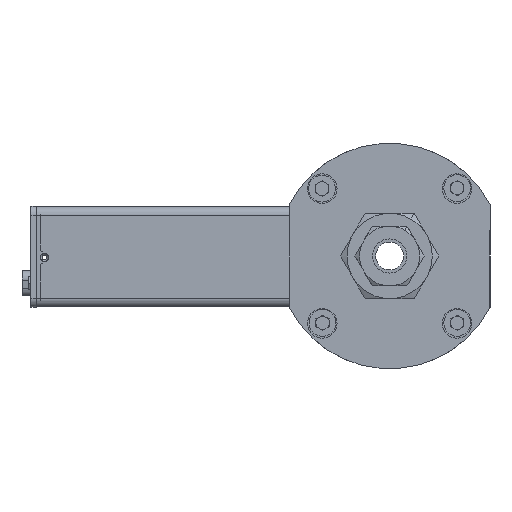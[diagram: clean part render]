
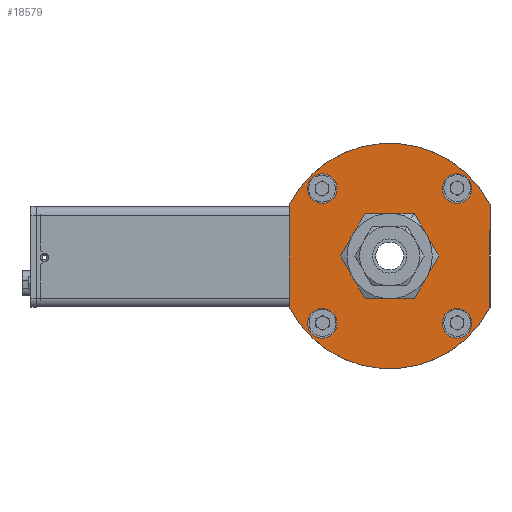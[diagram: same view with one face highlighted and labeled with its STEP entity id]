
A CAD part, left-side view. The second image highlights one B-rep face of the part: STEP entity #18579.
In plain terms, the highlighted planar face has unit normal (-1, 0, 0).
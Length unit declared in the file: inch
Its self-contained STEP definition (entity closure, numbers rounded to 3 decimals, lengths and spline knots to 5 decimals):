
#209 = DIRECTION ( 'NONE',  ( 0., -1., 0. ) ) ;
#408 = CARTESIAN_POINT ( 'NONE',  ( -6.97778, -0.77414, 1.81175 ) ) ;
#474 = CARTESIAN_POINT ( 'NONE',  ( -6.97778, -3.01832, 2.80003 ) ) ;
#493 = CARTESIAN_POINT ( 'NONE',  ( -6.97778, -3.23486, 0.82347 ) ) ;
#518 = CARTESIAN_POINT ( 'NONE',  ( -6.97778, -2.24658, 1.81175 ) ) ;
#522 = CIRCLE ( 'NONE', #21994, 0.21654 ) ;
#972 = FACE_BOUND ( 'NONE', #23304, .T. ) ;
#1647 = EDGE_LOOP ( 'NONE', ( #6251, #41717 ) ) ;
#1724 = CIRCLE ( 'NONE', #35048, 1.65354 ) ;
#2068 = EDGE_CURVE ( 'NONE', #42724, #38268, #38890, .T. ) ;
#2245 = VERTEX_POINT ( 'NONE', #11290 ) ;
#2362 = CARTESIAN_POINT ( 'NONE',  ( -6.97778, -1.2583, 2.80003 ) ) ;
#2393 = CARTESIAN_POINT ( 'NONE',  ( -6.97778, -1.04177, 0.82347 ) ) ;
#2960 = CIRCLE ( 'NONE', #24435, 0.21654 ) ;
#2998 = DIRECTION ( 'NONE',  ( 1., 0., 0. ) ) ;
#3721 = EDGE_CURVE ( 'NONE', #27210, #27921, #21081, .T. ) ;
#4463 = VERTEX_POINT ( 'NONE', #474 ) ;
#4666 = FACE_BOUND ( 'NONE', #38245, .T. ) ;
#6251 = ORIENTED_EDGE ( 'NONE', *, *, #33687, .T. ) ;
#6836 = DIRECTION ( 'NONE',  ( 0., 0., 1. ) ) ;
#7296 = EDGE_CURVE ( 'NONE', #21933, #2245, #29331, .T. ) ;
#7508 = ORIENTED_EDGE ( 'NONE', *, *, #3721, .T. ) ;
#7534 = VERTEX_POINT ( 'NONE', #11769 ) ;
#7545 = CARTESIAN_POINT ( 'NONE',  ( -6.97778, -3.23486, 0.82347 ) ) ;
#7663 = DIRECTION ( 'NONE',  ( 0., -1., 0. ) ) ;
#7670 = VECTOR ( 'NONE', #13636, 39.37008 ) ;
#7919 = DIRECTION ( 'NONE',  ( -1., 0., 0. ) ) ;
#8388 = FACE_BOUND ( 'NONE', #42024, .T. ) ;
#8608 = ORIENTED_EDGE ( 'NONE', *, *, #19496, .T. ) ;
#8610 = VERTEX_POINT ( 'NONE', #39188 ) ;
#9616 = ORIENTED_EDGE ( 'NONE', *, *, #33830, .T. ) ;
#9681 = CARTESIAN_POINT ( 'NONE',  ( -6.97778, -3.71902, 1.05933 ) ) ;
#10031 = CIRCLE ( 'NONE', #35907, 0.21654 ) ;
#11290 = CARTESIAN_POINT ( 'NONE',  ( -6.97778, -1.04177, 2.80003 ) ) ;
#11499 = DIRECTION ( 'NONE',  ( 1., 0., 0. ) ) ;
#11527 = DIRECTION ( 'NONE',  ( 0., 1., 0. ) ) ;
#11769 = CARTESIAN_POINT ( 'NONE',  ( -6.97778, -3.71902, 2.56416 ) ) ;
#12600 = CARTESIAN_POINT ( 'NONE',  ( -6.97778, -0.77414, 1.05933 ) ) ;
#12677 = EDGE_CURVE ( 'NONE', #8610, #36358, #2960, .T. ) ;
#13502 = DIRECTION ( 'NONE',  ( 1., 0., 0. ) ) ;
#13613 = DIRECTION ( 'NONE',  ( 1., 0., 0. ) ) ;
#13636 = DIRECTION ( 'NONE',  ( 0., 0., -1. ) ) ;
#13755 = AXIS2_PLACEMENT_3D ( 'NONE', #34531, #2998, #17147 ) ;
#14047 = CARTESIAN_POINT ( 'NONE',  ( -6.97778, -1.2583, 0.82347 ) ) ;
#15161 = ORIENTED_EDGE ( 'NONE', *, *, #7296, .T. ) ;
#16893 = DIRECTION ( 'NONE',  ( 0., -1., 0. ) ) ;
#16903 = CARTESIAN_POINT ( 'NONE',  ( -6.97778, -3.4514, 2.80003 ) ) ;
#17147 = DIRECTION ( 'NONE',  ( 0., 1., 0. ) ) ;
#17271 = CARTESIAN_POINT ( 'NONE',  ( -6.97778, -3.71902, 1.81175 ) ) ;
#18055 = ORIENTED_EDGE ( 'NONE', *, *, #35685, .T. ) ;
#18084 = EDGE_LOOP ( 'NONE', ( #18603, #34923, #31568, #40815 ) ) ;
#18432 = VECTOR ( 'NONE', #6836, 39.37008 ) ;
#18579 = ADVANCED_FACE ( 'NONE', ( #43158, #36431, #4666, #972, #28781, #8388 ), #43626, .T. ) ;
#18603 = ORIENTED_EDGE ( 'NONE', *, *, #2068, .T. ) ;
#18650 = AXIS2_PLACEMENT_3D ( 'NONE', #2362, #41317, #41549 ) ;
#18746 = CARTESIAN_POINT ( 'NONE',  ( -6.97778, -1.47484, 2.80003 ) ) ;
#19055 = CIRCLE ( 'NONE', #42744, 0.5748 ) ;
#19496 = EDGE_CURVE ( 'NONE', #28085, #27452, #21890, .T. ) ;
#19822 = AXIS2_PLACEMENT_3D ( 'NONE', #22884, #37030, #11527 ) ;
#19948 = ORIENTED_EDGE ( 'NONE', *, *, #20371, .T. ) ;
#20371 = EDGE_CURVE ( 'NONE', #36358, #8610, #10031, .T. ) ;
#21081 = CIRCLE ( 'NONE', #27754, 0.21654 ) ;
#21890 = CIRCLE ( 'NONE', #13755, 0.5748 ) ;
#21933 = VERTEX_POINT ( 'NONE', #18746 ) ;
#21994 = AXIS2_PLACEMENT_3D ( 'NONE', #31962, #29396, #209 ) ;
#22242 = CARTESIAN_POINT ( 'NONE',  ( -6.97778, -1.67178, 1.81175 ) ) ;
#22269 = DIRECTION ( 'NONE',  ( 1., 0., 0. ) ) ;
#22884 = CARTESIAN_POINT ( 'NONE',  ( -6.97778, -2.24658, 1.81175 ) ) ;
#23304 = EDGE_LOOP ( 'NONE', ( #7508, #9616 ) ) ;
#23716 = AXIS2_PLACEMENT_3D ( 'NONE', #42016, #13502, #31801 ) ;
#24138 = EDGE_CURVE ( 'NONE', #36629, #7534, #32089, .T. ) ;
#24435 = AXIS2_PLACEMENT_3D ( 'NONE', #7545, #11499, #25846 ) ;
#24688 = DIRECTION ( 'NONE',  ( 0., -1., 0. ) ) ;
#24789 = AXIS2_PLACEMENT_3D ( 'NONE', #518, #7919, #29010 ) ;
#24916 = CARTESIAN_POINT ( 'NONE',  ( -6.97778, -2.24658, 1.81175 ) ) ;
#25316 = EDGE_LOOP ( 'NONE', ( #18055, #8608 ) ) ;
#25846 = DIRECTION ( 'NONE',  ( 0., -1., 0. ) ) ;
#27109 = AXIS2_PLACEMENT_3D ( 'NONE', #29954, #34967, #16893 ) ;
#27159 = CARTESIAN_POINT ( 'NONE',  ( -6.97778, -0.77414, 2.56416 ) ) ;
#27210 = VERTEX_POINT ( 'NONE', #44549 ) ;
#27452 = VERTEX_POINT ( 'NONE', #22242 ) ;
#27520 = CIRCLE ( 'NONE', #18650, 0.21654 ) ;
#27661 = CARTESIAN_POINT ( 'NONE',  ( -6.97778, -2.82138, 1.81175 ) ) ;
#27754 = AXIS2_PLACEMENT_3D ( 'NONE', #14047, #28175, #24688 ) ;
#27921 = VERTEX_POINT ( 'NONE', #2393 ) ;
#28085 = VERTEX_POINT ( 'NONE', #27661 ) ;
#28175 = DIRECTION ( 'NONE',  ( 1., 0., 0. ) ) ;
#28781 = FACE_BOUND ( 'NONE', #1647, .T. ) ;
#29010 = DIRECTION ( 'NONE',  ( 0., 1., 0. ) ) ;
#29331 = CIRCLE ( 'NONE', #27109, 0.21654 ) ;
#29396 = DIRECTION ( 'NONE',  ( 1., 0., 0. ) ) ;
#29800 = EDGE_CURVE ( 'NONE', #38268, #36629, #1724, .T. ) ;
#29954 = CARTESIAN_POINT ( 'NONE',  ( -6.97778, -1.2583, 2.80003 ) ) ;
#31551 = ORIENTED_EDGE ( 'NONE', *, *, #42702, .T. ) ;
#31568 = ORIENTED_EDGE ( 'NONE', *, *, #24138, .T. ) ;
#31801 = DIRECTION ( 'NONE',  ( 0., -1., 0. ) ) ;
#31962 = CARTESIAN_POINT ( 'NONE',  ( -6.97778, -3.23486, 2.80003 ) ) ;
#32009 = DIRECTION ( 'NONE',  ( -1., 0., 0. ) ) ;
#32089 = LINE ( 'NONE', #17271, #18432 ) ;
#33687 = EDGE_CURVE ( 'NONE', #36294, #4463, #522, .T. ) ;
#33830 = EDGE_CURVE ( 'NONE', #27921, #27210, #40510, .T. ) ;
#33854 = AXIS2_PLACEMENT_3D ( 'NONE', #34939, #13613, #41894 ) ;
#34340 = EDGE_CURVE ( 'NONE', #7534, #42724, #39797, .T. ) ;
#34531 = CARTESIAN_POINT ( 'NONE',  ( -6.97778, -2.24658, 1.81175 ) ) ;
#34923 = ORIENTED_EDGE ( 'NONE', *, *, #29800, .T. ) ;
#34939 = CARTESIAN_POINT ( 'NONE',  ( -6.97778, -1.2583, 0.82347 ) ) ;
#34967 = DIRECTION ( 'NONE',  ( 1., 0., 0. ) ) ;
#35048 = AXIS2_PLACEMENT_3D ( 'NONE', #36156, #32009, #39192 ) ;
#35556 = ORIENTED_EDGE ( 'NONE', *, *, #12677, .T. ) ;
#35685 = EDGE_CURVE ( 'NONE', #27452, #28085, #19055, .T. ) ;
#35907 = AXIS2_PLACEMENT_3D ( 'NONE', #493, #22269, #7663 ) ;
#36156 = CARTESIAN_POINT ( 'NONE',  ( -6.97778, -2.24658, 1.81175 ) ) ;
#36294 = VERTEX_POINT ( 'NONE', #16903 ) ;
#36358 = VERTEX_POINT ( 'NONE', #42839 ) ;
#36431 = FACE_BOUND ( 'NONE', #25316, .T. ) ;
#36629 = VERTEX_POINT ( 'NONE', #9681 ) ;
#37030 = DIRECTION ( 'NONE',  ( -1., 0., 0. ) ) ;
#38245 = EDGE_LOOP ( 'NONE', ( #15161, #31551 ) ) ;
#38268 = VERTEX_POINT ( 'NONE', #12600 ) ;
#38503 = EDGE_CURVE ( 'NONE', #4463, #36294, #43700, .T. ) ;
#38890 = LINE ( 'NONE', #408, #7670 ) ;
#39075 = DIRECTION ( 'NONE',  ( 1., 0., 0. ) ) ;
#39188 = CARTESIAN_POINT ( 'NONE',  ( -6.97778, -3.4514, 0.82347 ) ) ;
#39192 = DIRECTION ( 'NONE',  ( 0., 1., 0. ) ) ;
#39797 = CIRCLE ( 'NONE', #19822, 1.65354 ) ;
#40510 = CIRCLE ( 'NONE', #33854, 0.21654 ) ;
#40815 = ORIENTED_EDGE ( 'NONE', *, *, #34340, .T. ) ;
#41317 = DIRECTION ( 'NONE',  ( 1., 0., 0. ) ) ;
#41549 = DIRECTION ( 'NONE',  ( 0., -1., 0. ) ) ;
#41717 = ORIENTED_EDGE ( 'NONE', *, *, #38503, .T. ) ;
#41894 = DIRECTION ( 'NONE',  ( 0., -1., 0. ) ) ;
#42016 = CARTESIAN_POINT ( 'NONE',  ( -6.97778, -3.23486, 2.80003 ) ) ;
#42024 = EDGE_LOOP ( 'NONE', ( #35556, #19948 ) ) ;
#42320 = DIRECTION ( 'NONE',  ( 0., 1., 0. ) ) ;
#42702 = EDGE_CURVE ( 'NONE', #2245, #21933, #27520, .T. ) ;
#42724 = VERTEX_POINT ( 'NONE', #27159 ) ;
#42744 = AXIS2_PLACEMENT_3D ( 'NONE', #24916, #39075, #42320 ) ;
#42839 = CARTESIAN_POINT ( 'NONE',  ( -6.97778, -3.01832, 0.82347 ) ) ;
#43158 = FACE_OUTER_BOUND ( 'NONE', #18084, .T. ) ;
#43626 = PLANE ( 'NONE',  #24789 ) ;
#43700 = CIRCLE ( 'NONE', #23716, 0.21654 ) ;
#44549 = CARTESIAN_POINT ( 'NONE',  ( -6.97778, -1.47484, 0.82347 ) ) ;
